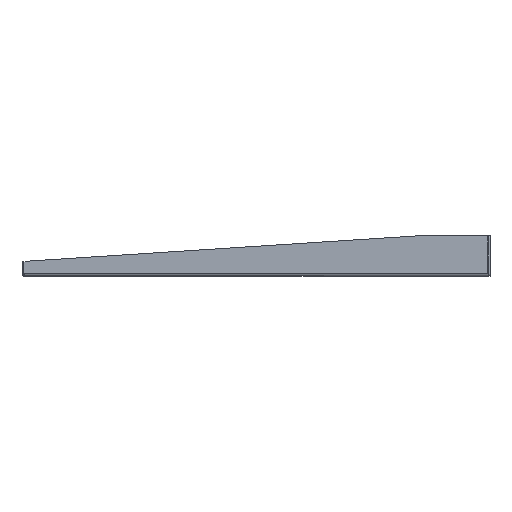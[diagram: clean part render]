
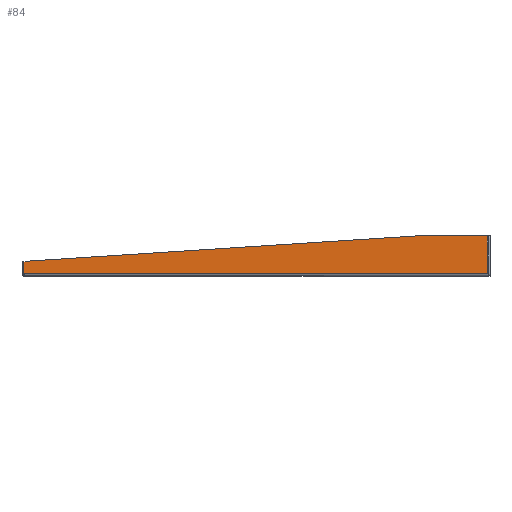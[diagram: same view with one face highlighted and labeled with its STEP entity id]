
A CAD part, left-side view. The second image highlights one B-rep face of the part: STEP entity #84.
In plain terms, the highlighted planar face has unit normal (-1, 0, 0).
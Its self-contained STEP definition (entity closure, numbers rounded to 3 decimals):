
#84 = ADVANCED_FACE( '', ( #815 ), #816, .F. );
#815 = FACE_OUTER_BOUND( '', #2538, .T. );
#816 = PLANE( '', #2539 );
#2538 = EDGE_LOOP( '', ( #4583, #4584, #4585, #4586, #4587, #4588, #4589, #4590 ) );
#2539 = AXIS2_PLACEMENT_3D( '', #4591, #4592, #4593 );
#4583 = ORIENTED_EDGE( '', *, *, #10482, .T. );
#4584 = ORIENTED_EDGE( '', *, *, #10483, .T. );
#4585 = ORIENTED_EDGE( '', *, *, #10484, .T. );
#4586 = ORIENTED_EDGE( '', *, *, #10475, .F. );
#4587 = ORIENTED_EDGE( '', *, *, #10436, .F. );
#4588 = ORIENTED_EDGE( '', *, *, #10467, .T. );
#4589 = ORIENTED_EDGE( '', *, *, #10470, .T. );
#4590 = ORIENTED_EDGE( '', *, *, #10473, .T. );
#4591 = CARTESIAN_POINT( '', ( -222.25, -253.086, 1.587 ) );
#4592 = DIRECTION( '', ( 1., 0., 0. ) );
#4593 = DIRECTION( '', ( 0., 0., -1. ) );
#10436 = EDGE_CURVE( '', #12545, #12543, #12547, .T. );
#10467 = EDGE_CURVE( '', #12545, #12595, #12597, .T. );
#10470 = EDGE_CURVE( '', #12595, #12600, #12602, .T. );
#10473 = EDGE_CURVE( '', #12600, #12605, #12607, .F. );
#10475 = EDGE_CURVE( '', #12543, #12609, #12610, .T. );
#10482 = EDGE_CURVE( '', #12605, #12619, #12621, .T. );
#10483 = EDGE_CURVE( '', #12619, #12622, #12623, .T. );
#10484 = EDGE_CURVE( '', #12622, #12609, #12624, .T. );
#12543 = VERTEX_POINT( '', #16014 );
#12545 = VERTEX_POINT( '', #16016 );
#12547 = LINE( '', #16018, #16019 );
#12595 = VERTEX_POINT( '', #16088 );
#12597 = LINE( '', #16091, #16092 );
#12600 = VERTEX_POINT( '', #16096 );
#12602 = LINE( '', #16099, #16100 );
#12605 = VERTEX_POINT( '', #16104 );
#12607 = LINE( '', #16107, #16108 );
#12609 = VERTEX_POINT( '', #16111 );
#12610 = LINE( '', #16112, #16113 );
#12619 = VERTEX_POINT( '', #16126 );
#12621 = LINE( '', #16129, #16130 );
#12622 = VERTEX_POINT( '', #16131 );
#12623 = CIRCLE( '', #16132, 1.397 );
#12624 = LINE( '', #16133, #16134 );
#16014 = CARTESIAN_POINT( '', ( -222.25, -252.171, 2.745 ) );
#16016 = CARTESIAN_POINT( '', ( -222.25, -252.171, 43.637 ) );
#16018 = CARTESIAN_POINT( '', ( -222.25, -252.171, 2.745 ) );
#16019 = VECTOR( '', #20745, 1000. );
#16088 = CARTESIAN_POINT( '', ( -222.25, -174.981, 43.637 ) );
#16091 = CARTESIAN_POINT( '', ( -222.25, -253.086, 43.637 ) );
#16092 = VECTOR( '', #20792, 1000. );
#16096 = CARTESIAN_POINT( '', ( -222.25, 249.69, 16.095 ) );
#16099 = CARTESIAN_POINT( '', ( -222.25, -250.043, 48.505 ) );
#16100 = VECTOR( '', #20795, 1000. );
#16104 = CARTESIAN_POINT( '', ( -222.25, 251.255, 14.531 ) );
#16107 = CARTESIAN_POINT( '', ( -222.25, 249.69, 16.095 ) );
#16108 = VECTOR( '', #20798, 1000. );
#16111 = CARTESIAN_POINT( '', ( -222.25, -252.171, 2.743 ) );
#16112 = CARTESIAN_POINT( '', ( -222.25, -252.171, 2.745 ) );
#16113 = VECTOR( '', #20800, 1000. );
#16126 = CARTESIAN_POINT( '', ( -222.25, 251.255, 2.963 ) );
#16129 = CARTESIAN_POINT( '', ( -222.25, 251.255, 43.637 ) );
#16130 = VECTOR( '', #20809, 1000. );
#16131 = CARTESIAN_POINT( '', ( -222.25, 250.714, 2.743 ) );
#16132 = AXIS2_PLACEMENT_3D( '', #20810, #20811, #20812 );
#16133 = CARTESIAN_POINT( '', ( -222.25, 253.086, 2.743 ) );
#16134 = VECTOR( '', #20813, 1000. );
#20745 = DIRECTION( '', ( 0., 0., -1. ) );
#20792 = DIRECTION( '', ( 0., 1., 0. ) );
#20795 = DIRECTION( '', ( 0., 0.998, -0.065 ) );
#20798 = DIRECTION( '', ( 0., -0.707, 0.707 ) );
#20800 = DIRECTION( '', ( 0., 0., -1. ) );
#20809 = DIRECTION( '', ( 0., 0., -1. ) );
#20810 = CARTESIAN_POINT( '', ( -222.25, 251.498, 1.587 ) );
#20811 = DIRECTION( '', ( 1., 0., 0. ) );
#20812 = DIRECTION( '', ( 0., 1., 0. ) );
#20813 = DIRECTION( '', ( 0., -1., 0. ) );
